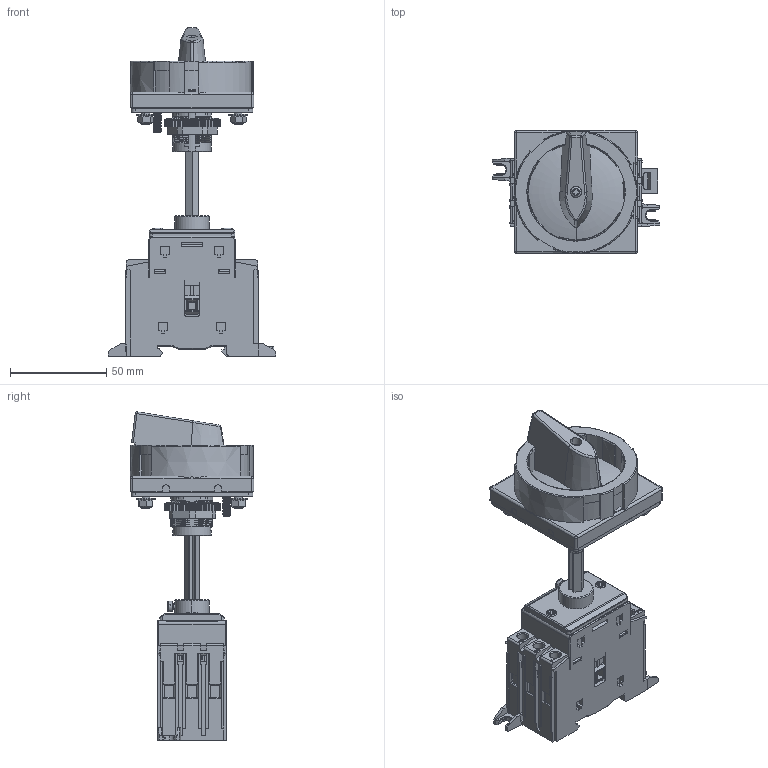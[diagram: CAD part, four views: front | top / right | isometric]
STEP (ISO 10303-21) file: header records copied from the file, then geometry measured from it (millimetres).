
FILE_DESCRIPTION (( 'STEP AP203' ), '1' );
FILE_NAME ('NF2-40DO.STEP', '2024-03-01T04:44:37', ( 'wzjh' ), ( '' ), 'SwSTEP 2.0', 'SolidWorks 2023', '' );
FILE_SCHEMA (( 'CONFIG_CONTROL_DESIGN' ));
Products named in the file (1): NF2-40DO
Bounding box: 87 x 64 x 170.23 mm (x, y, z)
Volume: 210132.9 mm3; surface area: 78954.7 mm2
Topology: 6 solids, 23 shells, 3673 faces, 10487 edges, 6801 vertices
Faces by surface type: plane 2464, cylinder 698, bspline 261, cone 130, torus 84, sphere 36
Entity records: 173850 total; most frequent: CARTESIAN_POINT 81387, ORIENTED_EDGE 20930, DIRECTION 16972, EDGE_CURVE 10465, VECTOR 7420, LINE 7420, VERTEX_POINT 6801, AXIS2_PLACEMENT_3D 4776
